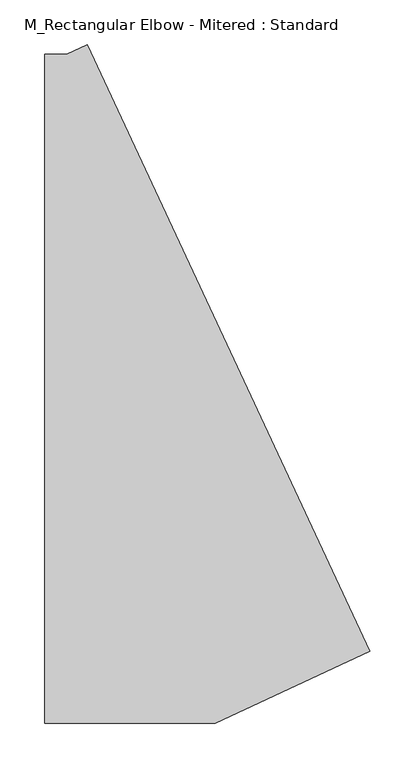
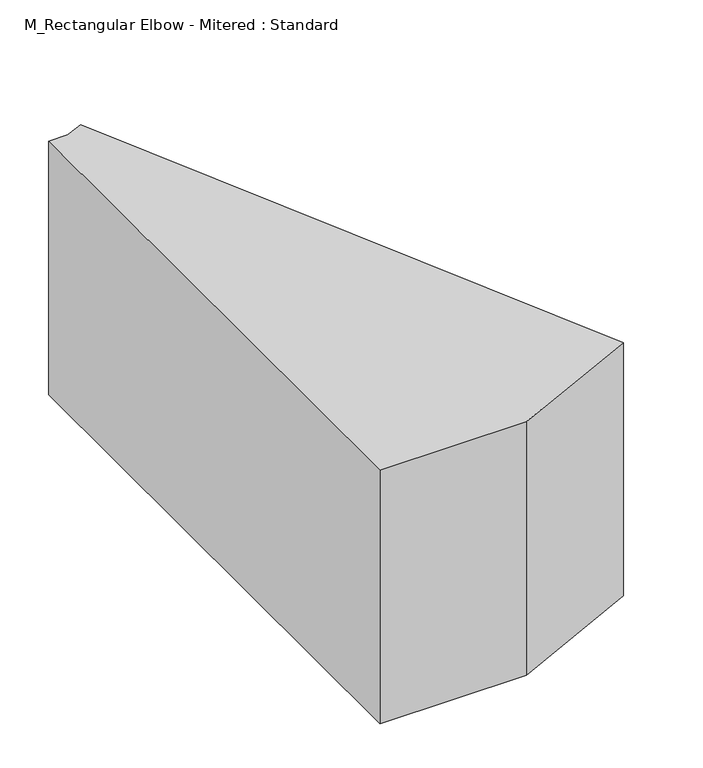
"""IFC4 building model written with IfcOpenShell, lengths in millimetres: duct fitting geometry, M_Rectangular Elbow - Mitered : Standard."""

from ifc_helpers import new_model, si_unit, frame, origin, place, context, project, spatial, polyline, outline, extrude, source, transform, mapped, element, save


def m_rectangular_elbow_mitered_standard_78d8341d(model_context):
    return source(origin(), model_context, "Body", "SweptSolid", [
        extrude(outline(polyline([(-108.1354985, -375.0), (-108.1354985, 375.0), (-83.1354985, 375.0), (-60.4778038, 385.5654565), (256.4858925, -294.1653837), (83.1354985, -375.0), (-108.1354985, -375.0)])), frame((0.0, 0.0, -175.0), z_axis=(0.0, 0.0, 1.0), x_axis=(1.0, 0.0, 0.0)), (0.0, 0.0, 1.0), 350.0),
        extrude(outline(polyline([(-108.1354985, -375.0), (-108.1354985, 375.0), (-83.1354985, 375.0), (-60.4778038, 385.5654565), (256.4858925, -294.1653837), (83.1354985, -375.0), (-108.1354985, -375.0)])), frame((0.0, 0.0, -175.0), z_axis=(0.0, 0.0, 1.0), x_axis=(1.0, 0.0, 0.0)), (0.0, 0.0, 1.0), 350.0),
        extrude(outline(polyline([(-108.1354985, -375.0), (-108.1354985, 375.0), (-83.1354985, 375.0), (-60.4778038, 385.5654565), (256.4858925, -294.1653837), (83.1354985, -375.0), (-108.1354985, -375.0)])), frame((0.0, 0.0, -175.0), z_axis=(0.0, 0.0, 1.0), x_axis=(1.0, 0.0, 0.0)), (0.0, 0.0, 1.0), 350.0),
    ])


if __name__ == "__main__":
    model = new_model("IFC4")
    model_context = context("Model", 3, world=origin())
    ifc_project = project(units=[si_unit("LENGTHUNIT", "METRE", prefix="MILLI")], contexts=[model_context])
    site = spatial("IfcSite", under=ifc_project)
    building = spatial("IfcBuilding", under=site)
    placement = place(None, origin())
    m_rectangular_elbow_mitered_standard_shape = m_rectangular_elbow_mitered_standard_78d8341d(model_context)
    element("IfcDuctFitting", 1, ObjectType="M_Rectangular Elbow - Mitered : Standard", at=placement, inside=building, context=model_context, shape_type="MappedRepresentation", body=[
        mapped(m_rectangular_elbow_mitered_standard_shape, transform((0.0, 0.0, 0.0), x_axis=(1.0, 0.0, 0.0), y_axis=(0.0, 1.0, 0.0), z_axis=(0.0, 0.0, 1.0))),
    ])
    save(model, "model.ifc")
